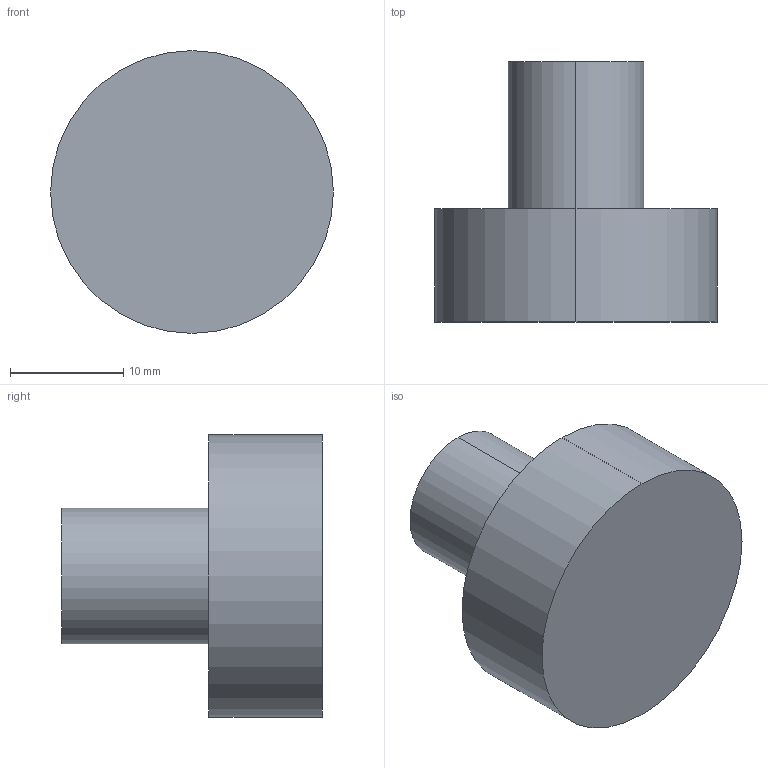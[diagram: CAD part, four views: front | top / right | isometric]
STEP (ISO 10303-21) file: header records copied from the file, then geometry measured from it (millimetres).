
FILE_DESCRIPTION( ( '' ), '1' );
FILE_NAME( 'C:/Documents and Settings/Nikhil/Desktop/Nik/Done/9071860.stp', '2013-10-23T11:11:13', ( '' ), ( '' ), ' ', ' ', ' ' );
FILE_SCHEMA( ( 'automotive_design' ) );
Length unit declared in the file: millimetre
Products named in the file (1): 1
Bounding box: 25 x 23 x 25 mm (x, y, z)
Volume: 6278.5 mm3; surface area: 2357.8 mm2
Topology: 1 solids, 1 shells, 10 faces, 18 edges, 12 vertices
Faces by surface type: cylinder 6, plane 4
Entity records: 508 total; most frequent: DIRECTION 52, STYLED_ITEM 41, PRESENTATION_STYLE_ASSIGNMENT 41, CARTESIAN_POINT 41, COLOUR_RGB 41, ORIENTED_EDGE 36, AXIS2_PLACEMENT_3D 23, EDGE_CURVE 18
